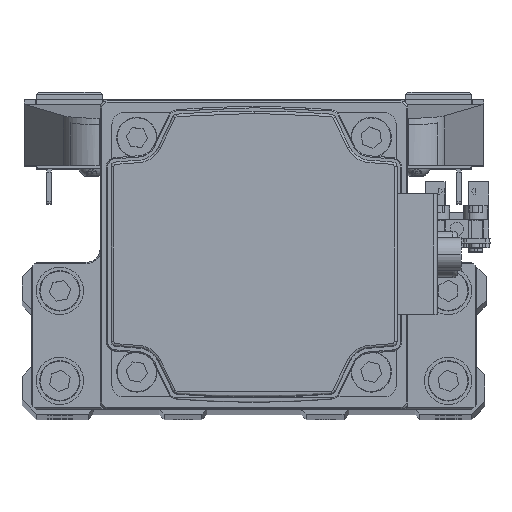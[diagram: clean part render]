
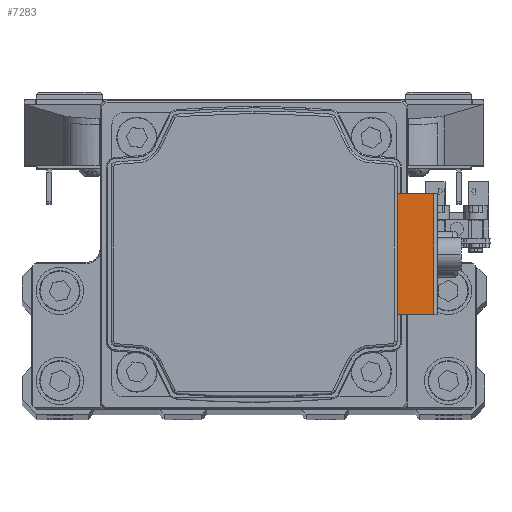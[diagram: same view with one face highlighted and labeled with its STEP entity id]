
A CAD part, top view. The second image highlights one B-rep face of the part: STEP entity #7283.
In plain terms, the highlighted planar face has unit normal (0, 0, 1) as drawn and (0, 0, -1) by its records, which use the part's own axes.
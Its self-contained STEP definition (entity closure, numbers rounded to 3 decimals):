
#17 = CARTESIAN_POINT ( 'NONE',  ( 0., 37.9, -88.696 ) ) ;
#1844 = EDGE_CURVE ( 'NONE', #26695, #6985, #23068, .T. ) ;
#2497 = ORIENTED_EDGE ( 'NONE', *, *, #11105, .F. ) ;
#5701 = DIRECTION ( 'NONE',  ( 1., 0., 0. ) ) ;
#6127 = CARTESIAN_POINT ( 'NONE',  ( -12.75, 37.9, -88.696 ) ) ;
#6437 = CARTESIAN_POINT ( 'NONE',  ( 12.75, 33.991, -88.696 ) ) ;
#6985 = VERTEX_POINT ( 'NONE', #41791 ) ;
#7283 = ADVANCED_FACE ( 'NONE', ( #17407 ), #31377, .T. ) ;
#8655 = CARTESIAN_POINT ( 'NONE',  ( 0., 37.9, -88.696 ) ) ;
#9556 = ORIENTED_EDGE ( 'NONE', *, *, #1844, .F. ) ;
#11105 = EDGE_CURVE ( 'NONE', #6985, #30832, #37774, .T. ) ;
#11377 = AXIS2_PLACEMENT_3D ( 'NONE', #17, #13965, #27939 ) ;
#13965 = DIRECTION ( 'NONE',  ( 0., 0., -1. ) ) ;
#15949 = VECTOR ( 'NONE', #20077, 1000. ) ;
#16698 = VECTOR ( 'NONE', #5701, 1000. ) ;
#17407 = FACE_OUTER_BOUND ( 'NONE', #27586, .T. ) ;
#20077 = DIRECTION ( 'NONE',  ( 0., 1., 0. ) ) ;
#20392 = DIRECTION ( 'NONE',  ( 0., 1., 0. ) ) ;
#22614 = DIRECTION ( 'NONE',  ( 1., 0., 0. ) ) ;
#23068 = LINE ( 'NONE', #37034, #16698 ) ;
#23582 = ORIENTED_EDGE ( 'NONE', *, *, #33719, .T. ) ;
#24984 = VECTOR ( 'NONE', #22614, 1000. ) ;
#24997 = VERTEX_POINT ( 'NONE', #44038 ) ;
#26695 = VERTEX_POINT ( 'NONE', #36480 ) ;
#27586 = EDGE_LOOP ( 'NONE', ( #40023, #23582, #2497, #9556 ) ) ;
#27939 = DIRECTION ( 'NONE',  ( -1., 0., 0. ) ) ;
#29665 = CARTESIAN_POINT ( 'NONE',  ( 12.75, 37.9, -88.696 ) ) ;
#30502 = EDGE_CURVE ( 'NONE', #26695, #24997, #37461, .T. ) ;
#30832 = VERTEX_POINT ( 'NONE', #29665 ) ;
#31377 = PLANE ( 'NONE',  #11377 ) ;
#33719 = EDGE_CURVE ( 'NONE', #24997, #30832, #39999, .T. ) ;
#36480 = CARTESIAN_POINT ( 'NONE',  ( -12.75, 30.2, -88.696 ) ) ;
#37034 = CARTESIAN_POINT ( 'NONE',  ( 18.438, 30.2, -88.696 ) ) ;
#37461 = LINE ( 'NONE', #6127, #15949 ) ;
#37774 = LINE ( 'NONE', #6437, #40030 ) ;
#39999 = LINE ( 'NONE', #8655, #24984 ) ;
#40023 = ORIENTED_EDGE ( 'NONE', *, *, #30502, .T. ) ;
#40030 = VECTOR ( 'NONE', #20392, 1000. ) ;
#41791 = CARTESIAN_POINT ( 'NONE',  ( 12.75, 30.2, -88.696 ) ) ;
#44038 = CARTESIAN_POINT ( 'NONE',  ( -12.75, 37.9, -88.696 ) ) ;
